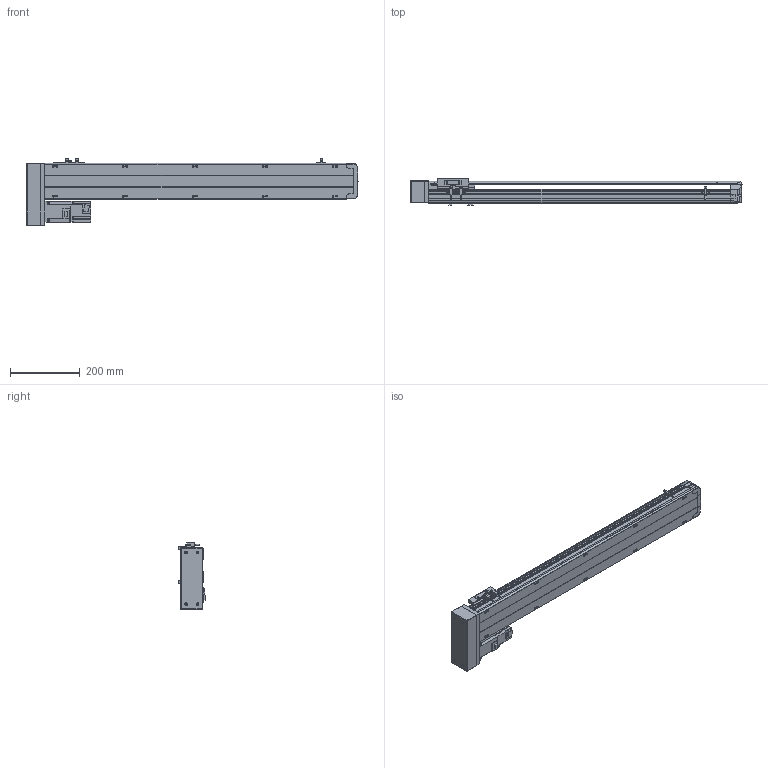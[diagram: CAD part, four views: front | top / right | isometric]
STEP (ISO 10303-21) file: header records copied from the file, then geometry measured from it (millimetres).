
FILE_DESCRIPTION( ( 'STEP AP214' ), '1' );
FILE_NAME( 'x:/temp/worker_27/temp/exporttempdir_6708_102_ezESM/format_0/PSS120-L10-S700-BR-T40-C1-N(0).stp', '2022-06-06T00:30:43', ( 'License CC BY-ND 4.0' ), ( 'CADENAS' ), ' ', 'PARTsolutions', ' ' );
FILE_SCHEMA( ( 'AUTOMOTIVE_DESIGN { 1 0 10303 214 1 1 1 1 }' ) );
Length unit declared in the file: millimetre
Products named in the file (8): PSS120-L10-S700-BR-T40-C1-N(0); _PSS120-S700-BR-C1-N_body; _PSS120-N_Q; _PSS120-BR-C1-N_sl; _PSS120-N_sensor; _PSS120BR-N_h; _T40-p1; _PSS120-S700-BR-N_S
Assembly tree (9 placements, depth 2):
  PSS120-L10-S700-BR-T40-C1-N(0)
    _PSS120-S700-BR-C1-N_body
    _PSS120-N_Q
    _PSS120-BR-C1-N_sl
    _PSS120-N_sensor  x3
    _PSS120BR-N_h
    _T40-p1
    _PSS120-S700-BR-N_S
Bounding box: 949.35 x 76.8 x 191.2 mm (x, y, z)
Volume: 3814644.6 mm3; surface area: 643689.3 mm2
Topology: 9 solids, 9 shells, 832 faces, 2229 edges, 1474 vertices
Faces by surface type: plane 589, cylinder 221, cone 18, sphere 4
Full cylindrical faces by diameter (mm): 2.8 x3, 4 x4, 4.134 x14, 4.4 x2, 4.5 x4, 4.6 x3, 5 x6, 5.5 x17, 7 x2, 7.4 x4, 8 x4, 8.5 x14, 14 x1, 28 x1, 32 x2, 50 x1
Entity records: 28489 total; most frequent: CARTESIAN_POINT 4383, DIRECTION 3729, ORIENTED_EDGE 3646, EDGE_CURVE 1823, LINE 1313, VECTOR 1313, VERTEX_POINT 1260, AXIS2_PLACEMENT_3D 1208
